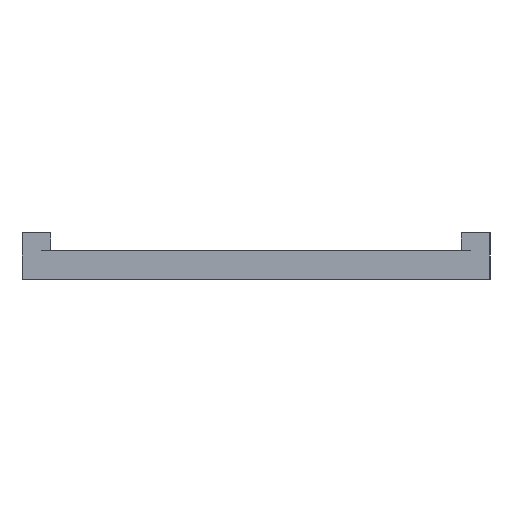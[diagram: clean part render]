
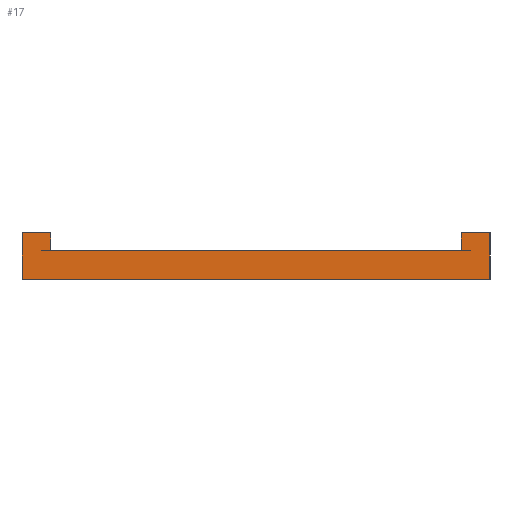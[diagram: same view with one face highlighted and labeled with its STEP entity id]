
A CAD part, left-side view. The second image highlights one B-rep face of the part: STEP entity #17.
In plain terms, the highlighted planar face has unit normal (-1, 0, 0).
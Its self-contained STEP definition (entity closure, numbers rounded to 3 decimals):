
#17 = ADVANCED_FACE('',(#18),#32,.T.);
#18 = FACE_BOUND('',#19,.T.);
#19 = EDGE_LOOP('',(#20,#55,#83,#111,#139,#167,#195,#223));
#20 = ORIENTED_EDGE('',*,*,#21,.F.);
#21 = EDGE_CURVE('',#22,#24,#26,.T.);
#22 = VERTEX_POINT('',#23);
#23 = CARTESIAN_POINT('',(-21.75,-17.75,0.));
#24 = VERTEX_POINT('',#25);
#25 = CARTESIAN_POINT('',(-21.75,-20.25,0.));
#26 = SURFACE_CURVE('',#27,(#31,#43),.PCURVE_S1.);
#27 = LINE('',#28,#29);
#28 = CARTESIAN_POINT('',(-21.75,10.125,0.));
#29 = VECTOR('',#30,1.);
#30 = DIRECTION('',(0.,-1.,0.));
#31 = PCURVE('',#32,#37);
#32 = PLANE('',#33);
#33 = AXIS2_PLACEMENT_3D('',#34,#35,#36);
#34 = CARTESIAN_POINT('',(-21.75,10.125,-4.));
#35 = DIRECTION('',(-1.,0.,0.));
#36 = DIRECTION('',(0.,0.,1.));
#37 = DEFINITIONAL_REPRESENTATION('',(#38),#42);
#38 = LINE('',#39,#40);
#39 = CARTESIAN_POINT('',(4.,0.));
#40 = VECTOR('',#41,1.);
#41 = DIRECTION('',(0.,-1.));
#42 = ( GEOMETRIC_REPRESENTATION_CONTEXT(2) 
PARAMETRIC_REPRESENTATION_CONTEXT() REPRESENTATION_CONTEXT('2D SPACE',''
  ) );
#43 = PCURVE('',#44,#49);
#44 = PLANE('',#45);
#45 = AXIS2_PLACEMENT_3D('',#46,#47,#48);
#46 = CARTESIAN_POINT('',(0.,0.,0.));
#47 = DIRECTION('',(0.,0.,1.));
#48 = DIRECTION('',(1.,0.,-0.));
#49 = DEFINITIONAL_REPRESENTATION('',(#50),#54);
#50 = LINE('',#51,#52);
#51 = CARTESIAN_POINT('',(-21.75,10.125));
#52 = VECTOR('',#53,1.);
#53 = DIRECTION('',(0.,-1.));
#54 = ( GEOMETRIC_REPRESENTATION_CONTEXT(2) 
PARAMETRIC_REPRESENTATION_CONTEXT() REPRESENTATION_CONTEXT('2D SPACE',''
  ) );
#55 = ORIENTED_EDGE('',*,*,#56,.T.);
#56 = EDGE_CURVE('',#22,#57,#59,.T.);
#57 = VERTEX_POINT('',#58);
#58 = CARTESIAN_POINT('',(-21.75,-17.75,-1.5));
#59 = SURFACE_CURVE('',#60,(#64,#71),.PCURVE_S1.);
#60 = LINE('',#61,#62);
#61 = CARTESIAN_POINT('',(-21.75,-17.75,0.));
#62 = VECTOR('',#63,1.);
#63 = DIRECTION('',(0.,0.,-1.));
#64 = PCURVE('',#32,#65);
#65 = DEFINITIONAL_REPRESENTATION('',(#66),#70);
#66 = LINE('',#67,#68);
#67 = CARTESIAN_POINT('',(4.,-27.875));
#68 = VECTOR('',#69,1.);
#69 = DIRECTION('',(-1.,0.));
#70 = ( GEOMETRIC_REPRESENTATION_CONTEXT(2) 
PARAMETRIC_REPRESENTATION_CONTEXT() REPRESENTATION_CONTEXT('2D SPACE',''
  ) );
#71 = PCURVE('',#72,#77);
#72 = CYLINDRICAL_SURFACE('',#73,2.5);
#73 = AXIS2_PLACEMENT_3D('',#74,#75,#76);
#74 = CARTESIAN_POINT('',(-19.25,-17.75,0.));
#75 = DIRECTION('',(0.,0.,-1.));
#76 = DIRECTION('',(-1.,0.,0.));
#77 = DEFINITIONAL_REPRESENTATION('',(#78),#82);
#78 = LINE('',#79,#80);
#79 = CARTESIAN_POINT('',(6.283,0.));
#80 = VECTOR('',#81,1.);
#81 = DIRECTION('',(0.,1.));
#82 = ( GEOMETRIC_REPRESENTATION_CONTEXT(2) 
PARAMETRIC_REPRESENTATION_CONTEXT() REPRESENTATION_CONTEXT('2D SPACE',''
  ) );
#83 = ORIENTED_EDGE('',*,*,#84,.F.);
#84 = EDGE_CURVE('',#85,#57,#87,.T.);
#85 = VERTEX_POINT('',#86);
#86 = CARTESIAN_POINT('',(-21.75,17.75,-1.5));
#87 = SURFACE_CURVE('',#88,(#92,#99),.PCURVE_S1.);
#88 = LINE('',#89,#90);
#89 = CARTESIAN_POINT('',(-21.75,8.875,-1.5));
#90 = VECTOR('',#91,1.);
#91 = DIRECTION('',(0.,-1.,0.));
#92 = PCURVE('',#32,#93);
#93 = DEFINITIONAL_REPRESENTATION('',(#94),#98);
#94 = LINE('',#95,#96);
#95 = CARTESIAN_POINT('',(2.5,-1.25));
#96 = VECTOR('',#97,1.);
#97 = DIRECTION('',(0.,-1.));
#98 = ( GEOMETRIC_REPRESENTATION_CONTEXT(2) 
PARAMETRIC_REPRESENTATION_CONTEXT() REPRESENTATION_CONTEXT('2D SPACE',''
  ) );
#99 = PCURVE('',#100,#105);
#100 = PLANE('',#101);
#101 = AXIS2_PLACEMENT_3D('',#102,#103,#104);
#102 = CARTESIAN_POINT('',(0.,0.,-1.5));
#103 = DIRECTION('',(0.,0.,1.));
#104 = DIRECTION('',(1.,0.,-0.));
#105 = DEFINITIONAL_REPRESENTATION('',(#106),#110);
#106 = LINE('',#107,#108);
#107 = CARTESIAN_POINT('',(-21.75,8.875));
#108 = VECTOR('',#109,1.);
#109 = DIRECTION('',(0.,-1.));
#110 = ( GEOMETRIC_REPRESENTATION_CONTEXT(2) 
PARAMETRIC_REPRESENTATION_CONTEXT() REPRESENTATION_CONTEXT('2D SPACE',''
  ) );
#111 = ORIENTED_EDGE('',*,*,#112,.F.);
#112 = EDGE_CURVE('',#113,#85,#115,.T.);
#113 = VERTEX_POINT('',#114);
#114 = CARTESIAN_POINT('',(-21.75,17.75,0.));
#115 = SURFACE_CURVE('',#116,(#120,#127),.PCURVE_S1.);
#116 = LINE('',#117,#118);
#117 = CARTESIAN_POINT('',(-21.75,17.75,0.));
#118 = VECTOR('',#119,1.);
#119 = DIRECTION('',(0.,0.,-1.));
#120 = PCURVE('',#32,#121);
#121 = DEFINITIONAL_REPRESENTATION('',(#122),#126);
#122 = LINE('',#123,#124);
#123 = CARTESIAN_POINT('',(4.,7.625));
#124 = VECTOR('',#125,1.);
#125 = DIRECTION('',(-1.,0.));
#126 = ( GEOMETRIC_REPRESENTATION_CONTEXT(2) 
PARAMETRIC_REPRESENTATION_CONTEXT() REPRESENTATION_CONTEXT('2D SPACE',''
  ) );
#127 = PCURVE('',#128,#133);
#128 = CYLINDRICAL_SURFACE('',#129,2.5);
#129 = AXIS2_PLACEMENT_3D('',#130,#131,#132);
#130 = CARTESIAN_POINT('',(-19.25,17.75,0.));
#131 = DIRECTION('',(0.,0.,-1.));
#132 = DIRECTION('',(-1.,0.,0.));
#133 = DEFINITIONAL_REPRESENTATION('',(#134),#138);
#134 = LINE('',#135,#136);
#135 = CARTESIAN_POINT('',(0.,0.));
#136 = VECTOR('',#137,1.);
#137 = DIRECTION('',(0.,1.));
#138 = ( GEOMETRIC_REPRESENTATION_CONTEXT(2) 
PARAMETRIC_REPRESENTATION_CONTEXT() REPRESENTATION_CONTEXT('2D SPACE',''
  ) );
#139 = ORIENTED_EDGE('',*,*,#140,.F.);
#140 = EDGE_CURVE('',#141,#113,#143,.T.);
#141 = VERTEX_POINT('',#142);
#142 = CARTESIAN_POINT('',(-21.75,20.25,0.));
#143 = SURFACE_CURVE('',#144,(#148,#155),.PCURVE_S1.);
#144 = LINE('',#145,#146);
#145 = CARTESIAN_POINT('',(-21.75,10.125,0.));
#146 = VECTOR('',#147,1.);
#147 = DIRECTION('',(0.,-1.,0.));
#148 = PCURVE('',#32,#149);
#149 = DEFINITIONAL_REPRESENTATION('',(#150),#154);
#150 = LINE('',#151,#152);
#151 = CARTESIAN_POINT('',(4.,0.));
#152 = VECTOR('',#153,1.);
#153 = DIRECTION('',(0.,-1.));
#154 = ( GEOMETRIC_REPRESENTATION_CONTEXT(2) 
PARAMETRIC_REPRESENTATION_CONTEXT() REPRESENTATION_CONTEXT('2D SPACE',''
  ) );
#155 = PCURVE('',#156,#161);
#156 = PLANE('',#157);
#157 = AXIS2_PLACEMENT_3D('',#158,#159,#160);
#158 = CARTESIAN_POINT('',(0.,0.,0.));
#159 = DIRECTION('',(0.,0.,1.));
#160 = DIRECTION('',(1.,0.,-0.));
#161 = DEFINITIONAL_REPRESENTATION('',(#162),#166);
#162 = LINE('',#163,#164);
#163 = CARTESIAN_POINT('',(-21.75,10.125));
#164 = VECTOR('',#165,1.);
#165 = DIRECTION('',(0.,-1.));
#166 = ( GEOMETRIC_REPRESENTATION_CONTEXT(2) 
PARAMETRIC_REPRESENTATION_CONTEXT() REPRESENTATION_CONTEXT('2D SPACE',''
  ) );
#167 = ORIENTED_EDGE('',*,*,#168,.F.);
#168 = EDGE_CURVE('',#169,#141,#171,.T.);
#169 = VERTEX_POINT('',#170);
#170 = CARTESIAN_POINT('',(-21.75,20.25,-4.));
#171 = SURFACE_CURVE('',#172,(#176,#183),.PCURVE_S1.);
#172 = LINE('',#173,#174);
#173 = CARTESIAN_POINT('',(-21.75,20.25,-4.));
#174 = VECTOR('',#175,1.);
#175 = DIRECTION('',(0.,0.,1.));
#176 = PCURVE('',#32,#177);
#177 = DEFINITIONAL_REPRESENTATION('',(#178),#182);
#178 = LINE('',#179,#180);
#179 = CARTESIAN_POINT('',(0.,10.125));
#180 = VECTOR('',#181,1.);
#181 = DIRECTION('',(1.,0.));
#182 = ( GEOMETRIC_REPRESENTATION_CONTEXT(2) 
PARAMETRIC_REPRESENTATION_CONTEXT() REPRESENTATION_CONTEXT('2D SPACE',''
  ) );
#183 = PCURVE('',#184,#189);
#184 = PLANE('',#185);
#185 = AXIS2_PLACEMENT_3D('',#186,#187,#188);
#186 = CARTESIAN_POINT('',(0.,20.25,-4.));
#187 = DIRECTION('',(0.,-1.,0.));
#188 = DIRECTION('',(0.,0.,-1.));
#189 = DEFINITIONAL_REPRESENTATION('',(#190),#194);
#190 = LINE('',#191,#192);
#191 = CARTESIAN_POINT('',(0.,-21.75));
#192 = VECTOR('',#193,1.);
#193 = DIRECTION('',(-1.,0.));
#194 = ( GEOMETRIC_REPRESENTATION_CONTEXT(2) 
PARAMETRIC_REPRESENTATION_CONTEXT() REPRESENTATION_CONTEXT('2D SPACE',''
  ) );
#195 = ORIENTED_EDGE('',*,*,#196,.T.);
#196 = EDGE_CURVE('',#169,#197,#199,.T.);
#197 = VERTEX_POINT('',#198);
#198 = CARTESIAN_POINT('',(-21.75,-20.25,-4.));
#199 = SURFACE_CURVE('',#200,(#204,#211),.PCURVE_S1.);
#200 = LINE('',#201,#202);
#201 = CARTESIAN_POINT('',(-21.75,10.125,-4.));
#202 = VECTOR('',#203,1.);
#203 = DIRECTION('',(0.,-1.,0.));
#204 = PCURVE('',#32,#205);
#205 = DEFINITIONAL_REPRESENTATION('',(#206),#210);
#206 = LINE('',#207,#208);
#207 = CARTESIAN_POINT('',(0.,0.));
#208 = VECTOR('',#209,1.);
#209 = DIRECTION('',(0.,-1.));
#210 = ( GEOMETRIC_REPRESENTATION_CONTEXT(2) 
PARAMETRIC_REPRESENTATION_CONTEXT() REPRESENTATION_CONTEXT('2D SPACE',''
  ) );
#211 = PCURVE('',#212,#217);
#212 = PLANE('',#213);
#213 = AXIS2_PLACEMENT_3D('',#214,#215,#216);
#214 = CARTESIAN_POINT('',(0.,0.,-4.));
#215 = DIRECTION('',(0.,0.,1.));
#216 = DIRECTION('',(1.,0.,-0.));
#217 = DEFINITIONAL_REPRESENTATION('',(#218),#222);
#218 = LINE('',#219,#220);
#219 = CARTESIAN_POINT('',(-21.75,10.125));
#220 = VECTOR('',#221,1.);
#221 = DIRECTION('',(0.,-1.));
#222 = ( GEOMETRIC_REPRESENTATION_CONTEXT(2) 
PARAMETRIC_REPRESENTATION_CONTEXT() REPRESENTATION_CONTEXT('2D SPACE',''
  ) );
#223 = ORIENTED_EDGE('',*,*,#224,.T.);
#224 = EDGE_CURVE('',#197,#24,#225,.T.);
#225 = SURFACE_CURVE('',#226,(#230,#237),.PCURVE_S1.);
#226 = LINE('',#227,#228);
#227 = CARTESIAN_POINT('',(-21.75,-20.25,-4.));
#228 = VECTOR('',#229,1.);
#229 = DIRECTION('',(0.,0.,1.));
#230 = PCURVE('',#32,#231);
#231 = DEFINITIONAL_REPRESENTATION('',(#232),#236);
#232 = LINE('',#233,#234);
#233 = CARTESIAN_POINT('',(0.,-30.375));
#234 = VECTOR('',#235,1.);
#235 = DIRECTION('',(1.,0.));
#236 = ( GEOMETRIC_REPRESENTATION_CONTEXT(2) 
PARAMETRIC_REPRESENTATION_CONTEXT() REPRESENTATION_CONTEXT('2D SPACE',''
  ) );
#237 = PCURVE('',#238,#243);
#238 = PLANE('',#239);
#239 = AXIS2_PLACEMENT_3D('',#240,#241,#242);
#240 = CARTESIAN_POINT('',(0.,-20.25,-4.));
#241 = DIRECTION('',(0.,-1.,0.));
#242 = DIRECTION('',(0.,0.,-1.));
#243 = DEFINITIONAL_REPRESENTATION('',(#244),#248);
#244 = LINE('',#245,#246);
#245 = CARTESIAN_POINT('',(0.,-21.75));
#246 = VECTOR('',#247,1.);
#247 = DIRECTION('',(-1.,0.));
#248 = ( GEOMETRIC_REPRESENTATION_CONTEXT(2) 
PARAMETRIC_REPRESENTATION_CONTEXT() REPRESENTATION_CONTEXT('2D SPACE',''
  ) );
